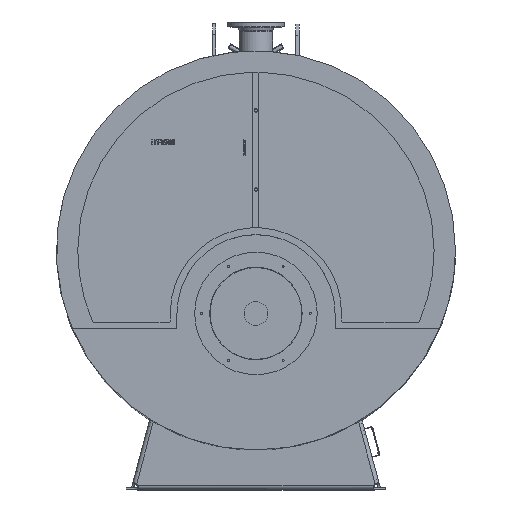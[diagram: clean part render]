
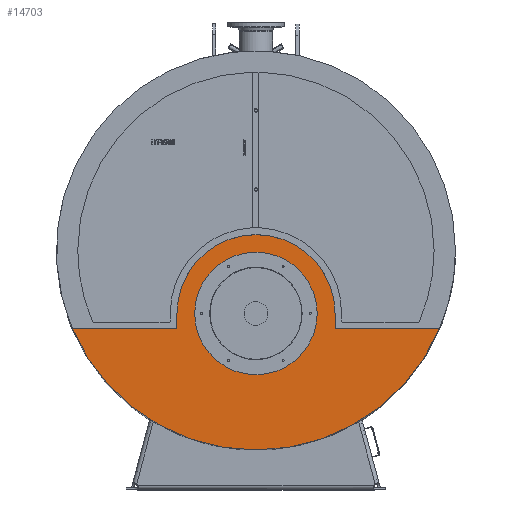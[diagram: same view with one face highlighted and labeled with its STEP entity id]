
A CAD part, top view. The second image highlights one B-rep face of the part: STEP entity #14703.
In plain terms, the highlighted planar face has unit normal (0, 0, 1).
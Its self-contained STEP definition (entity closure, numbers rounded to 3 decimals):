
#10355=CARTESIAN_POINT('',(928.587,-396.,101.));
#10356=VERTEX_POINT('',#10355);
#10363=CARTESIAN_POINT('',(-928.587,-396.,101.));
#10364=VERTEX_POINT('',#10363);
#10365=CARTESIAN_POINT('',(0.,0.,101.));
#10366=DIRECTION('',(0.,0.,1.));
#10367=DIRECTION('',(1.,0.,-0.));
#10368=AXIS2_PLACEMENT_3D('',#10365,#10366,#10367);
#10369=CIRCLE('',#10368,1009.5);
#10370=EDGE_CURVE('',#10364,#10356,#10369,.T.);
#14645=CARTESIAN_POINT('',(455.706,-648.25,101.));
#14646=DIRECTION('',(0.,0.,1.));
#14647=DIRECTION('',(1.,0.,0.));
#14648=AXIS2_PLACEMENT_3D('',#14645,#14646,#14647);
#14649=PLANE('',#14648);
#14650=CARTESIAN_POINT('',(310.,-319.,101.));
#14651=VERTEX_POINT('',#14650);
#14652=CARTESIAN_POINT('',(0.,-319.,101.));
#14653=DIRECTION('',(0.,0.,1.));
#14654=DIRECTION('',(1.,0.,-0.));
#14655=AXIS2_PLACEMENT_3D('',#14652,#14653,#14654);
#14656=CIRCLE('',#14655,310.);
#14657=EDGE_CURVE('',#14651,#14651,#14656,.T.);
#14658=ORIENTED_EDGE('',*,*,#14657,.F.);
#14659=EDGE_LOOP('',(#14658));
#14660=FACE_BOUND('',#14659,.T.);
#14661=ORIENTED_EDGE('',*,*,#10370,.T.);
#14662=CARTESIAN_POINT('',(400.5,-396.,101.));
#14663=VERTEX_POINT('',#14662);
#14664=CARTESIAN_POINT('',(928.587,-396.,101.));
#14665=DIRECTION('',(-1.,0.,0.));
#14666=VECTOR('',#14665,528.087);
#14667=LINE('',#14664,#14666);
#14668=EDGE_CURVE('',#10356,#14663,#14667,.T.);
#14669=ORIENTED_EDGE('',*,*,#14668,.T.);
#14670=CARTESIAN_POINT('',(400.5,-319.,101.));
#14671=VERTEX_POINT('',#14670);
#14672=CARTESIAN_POINT('',(400.5,-396.,101.));
#14673=DIRECTION('',(0.,1.,0.));
#14674=VECTOR('',#14673,77.);
#14675=LINE('',#14672,#14674);
#14676=EDGE_CURVE('',#14663,#14671,#14675,.T.);
#14677=ORIENTED_EDGE('',*,*,#14676,.T.);
#14678=CARTESIAN_POINT('',(-399.5,-319.,101.));
#14679=VERTEX_POINT('',#14678);
#14680=CARTESIAN_POINT('',(0.5,-320.242,101.));
#14681=DIRECTION('',(0.,0.,1.));
#14682=DIRECTION('',(1.,0.,-0.));
#14683=AXIS2_PLACEMENT_3D('',#14680,#14681,#14682);
#14684=CIRCLE('',#14683,400.002);
#14685=EDGE_CURVE('',#14671,#14679,#14684,.T.);
#14686=ORIENTED_EDGE('',*,*,#14685,.T.);
#14687=CARTESIAN_POINT('',(-399.5,-396.,101.));
#14688=VERTEX_POINT('',#14687);
#14689=CARTESIAN_POINT('',(-399.5,-319.,101.));
#14690=DIRECTION('',(-0.,-1.,0.));
#14691=VECTOR('',#14690,77.);
#14692=LINE('',#14689,#14691);
#14693=EDGE_CURVE('',#14679,#14688,#14692,.T.);
#14694=ORIENTED_EDGE('',*,*,#14693,.T.);
#14695=CARTESIAN_POINT('',(-399.5,-396.,101.));
#14696=DIRECTION('',(-1.,0.,0.));
#14697=VECTOR('',#14696,529.087);
#14698=LINE('',#14695,#14697);
#14699=EDGE_CURVE('',#14688,#10364,#14698,.T.);
#14700=ORIENTED_EDGE('',*,*,#14699,.T.);
#14701=EDGE_LOOP('',(#14661,#14669,#14677,#14686,#14694,#14700));
#14702=FACE_BOUND('',#14701,.T.);
#14703=ADVANCED_FACE('',(#14660,#14702),#14649,.T.);
